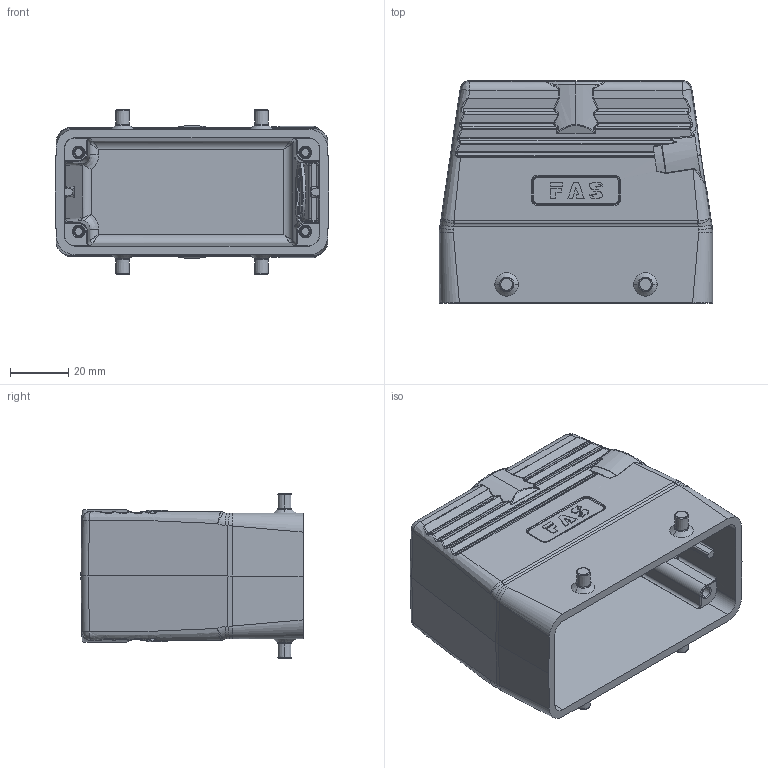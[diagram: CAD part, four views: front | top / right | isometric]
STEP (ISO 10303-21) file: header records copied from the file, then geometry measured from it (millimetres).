
FILE_DESCRIPTION (( 'STEP AP203' ), '1' );
FILE_NAME ('H16B-TSH-M25 奻褲.STEP', '2020-10-30T02:44:19', ( '' ), ( '' ), 'SwSTEP 2.0', 'SolidWorks 2016', '' );
FILE_SCHEMA (( 'CONFIG_CONTROL_DESIGN' ));
Length unit declared in the file: millimetre
Products named in the file (1): H16B-TSH-M25 奻褲
Bounding box: 93.5 x 76 x 56.4 mm (x, y, z)
Volume: 91823.2 mm3; surface area: 42797.4 mm2
Topology: 1 solids, 1 shells, 679 faces, 1677 edges, 1023 vertices
Faces by surface type: bspline 247, cylinder 200, plane 177, cone 55
Entity records: 32651 total; most frequent: CARTESIAN_POINT 18922, ORIENTED_EDGE 3346, DIRECTION 2148, EDGE_CURVE 1673, VERTEX_POINT 1023, AXIS2_PLACEMENT_3D 768, EDGE_LOOP 708, ADVANCED_FACE 679
